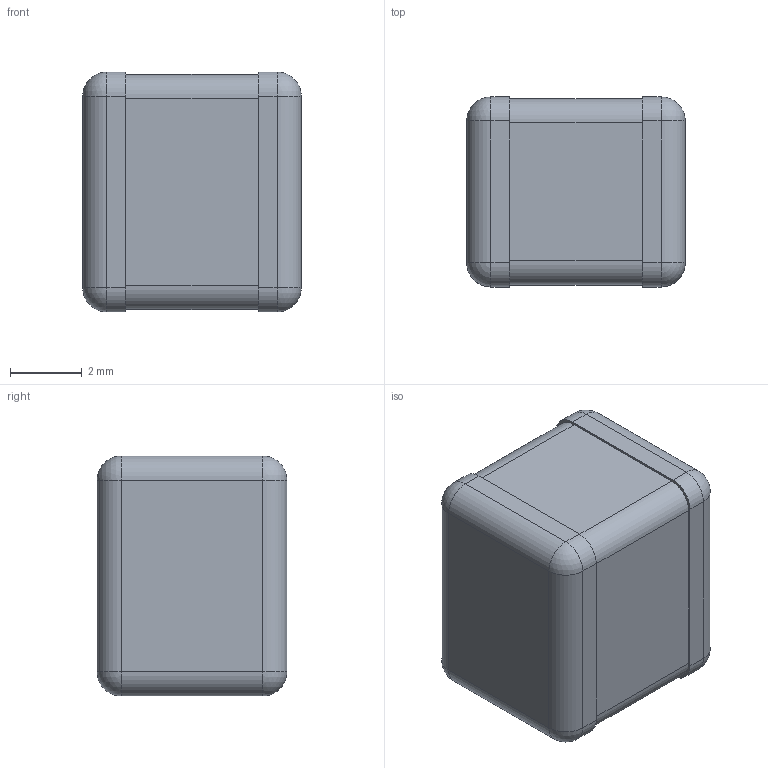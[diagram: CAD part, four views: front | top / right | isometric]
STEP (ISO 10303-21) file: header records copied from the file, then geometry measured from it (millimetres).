
FILE_DESCRIPTION(('FreeCAD Model'),'2;1');
FILE_NAME('/var/www/3D/0T/17556024.2.1.stp','2025-01-03T22:03:22',( 'Author'),(''),'Open CASCADE STEP processor 6.9','FreeCAD','Unknown' );
FILE_SCHEMA(('AUTOMOTIVE_DESIGN { 1 0 10303 214 1 1 1 1 }'));
Length unit declared in the file: millimetre
Products named in the file (4): ASSEMBLY; Fillet1; Fillet2; body2
Assembly tree (3 placements, depth 2):
  ASSEMBLY
    Fillet1
    Fillet2
    body2
Bounding box: 6.1 x 5.3 x 6.7 mm (x, y, z)
Volume: 204.8 mm3; surface area: 332 mm2
Topology: 3 solids, 3 shells, 46 faces, 104 edges, 56 vertices
Faces by surface type: cylinder 20, plane 18, sphere 8
Entity records: 2540 total; most frequent: CARTESIAN_POINT 474, DIRECTION 388, LINE 200, VECTOR 200, ORIENTED_EDGE 192, PCURVE 192, DEFINITIONAL_REPRESENTATION 192, EDGE_CURVE 96
